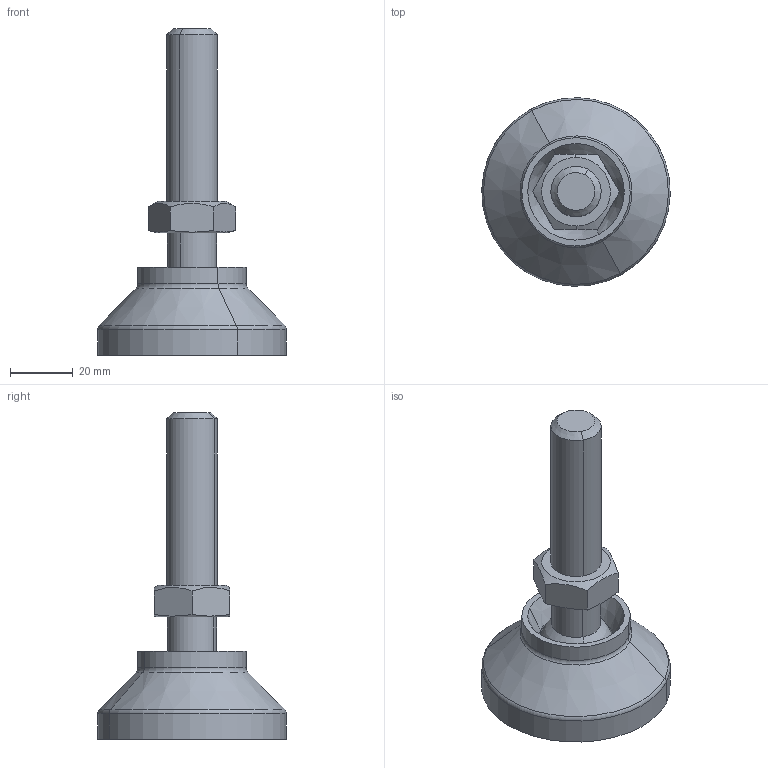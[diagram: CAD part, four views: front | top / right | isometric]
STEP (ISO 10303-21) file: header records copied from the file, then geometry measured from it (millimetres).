
FILE_DESCRIPTION(('CATIA V5 STEP Exchange'),'2;1');
FILE_NAME('C:\Users\ALI OZGUN\Desktop\alhan\ARTICULATED_FEET-PABUCLAR\501601610.stp','2017-09-21T11:53:25+00:00',('none'),('none'),'CATIA Version 5 Release 21 GA (IN-10)','CATIA V5 STEP AP203','none');
FILE_SCHEMA(('CONFIG_CONTROL_DESIGN'));
Length unit declared in the file: millimetre
Products named in the file (1): 501601610
Bounding box: 59.98 x 59.98 x 104 mm (x, y, z)
Volume: 53497.6 mm3; surface area: 20401.5 mm2
Topology: 2 solids, 2 shells, 96 faces, 264 edges, 176 vertices
Faces by surface type: plane 44, cylinder 22, cone 20, sphere 6, torus 4
Entity records: 3114 total; most frequent: CARTESIAN_POINT 983, ORIENTED_EDGE 520, DIRECTION 280, EDGE_CURVE 260, VERTEX_POINT 176, AXIS2_PLACEMENT_3D 147, EDGE_LOOP 104, CIRCLE 100
